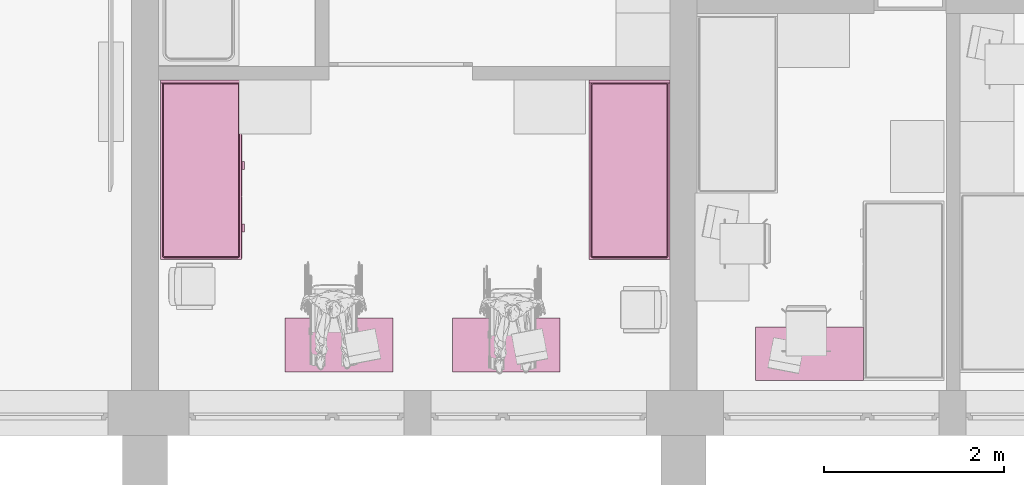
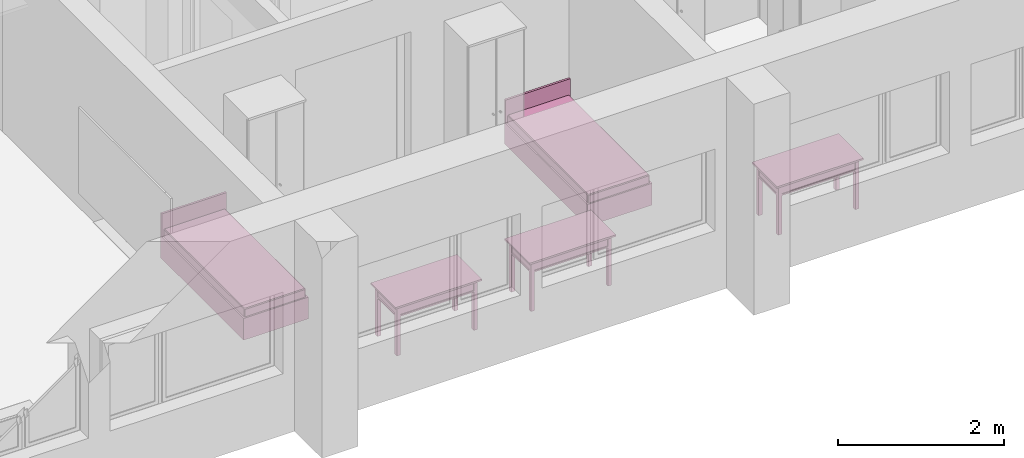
# One storey, part 123 of 172: 5 furnishings.
"""IFC2X3 building model written with IfcOpenShell, lengths in millimetres."""

from ifc_helpers import new_model, entity, si_unit, converted_unit, money_unit, direction, frame, origin_with_axes, place, context, subcontext, project, spatial, faceted_brep, source, transform, mapped, material, material_list, type_object, element, save


model = new_model("IFC2X3")

# Units and contexts
model_context = context("Model", 3, precision=1e-05, world=origin_with_axes(), true_north=direction((0.0, 1.0)))
body_context = subcontext(model_context, "Body", "Model", "MODEL_VIEW")
ifc_project = project(units=[si_unit("LENGTHUNIT", "METRE", prefix="MILLI"), si_unit("AREAUNIT", "SQUARE_METRE"), si_unit("VOLUMEUNIT", "CUBIC_METRE"), converted_unit("PLANEANGLEUNIT", "DEGREE", entity("IfcPlaneAngleMeasure", 0.0174532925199), si_unit("PLANEANGLEUNIT", "RADIAN"), dimensions=[0, 0, 0, 0, 0, 0, 0]), si_unit("SOLIDANGLEUNIT", "STERADIAN"), money_unit("USD"), converted_unit("TIMEUNIT", "Year", entity("IfcTimeMeasure", 31556926.0), si_unit("TIMEUNIT", "SECOND"), dimensions=[0, 0, 0, 0, 0, 0, 0]), si_unit("MASSUNIT", "GRAM"), si_unit("THERMODYNAMICTEMPERATUREUNIT", "DEGREE_CELSIUS"), si_unit("LUMINOUSINTENSITYUNIT", "LUMEN")], contexts=[model_context])

# Site, building, storey
site_placement = place(None, origin_with_axes())
site = spatial("IfcSite", under=ifc_project, at=site_placement, Name="Site", CompositionType="ELEMENT")
building_placement = place(site_placement, origin_with_axes())
building = spatial("IfcBuilding", under=site, at=building_placement, Name="Building", CompositionType="ELEMENT")
storey_placement = place(building_placement, frame((0.0, 0.0, 3200.0), z_axis=(0.0, 0.0, 1.0), x_axis=(1.0, 0.0, 0.0)))
storey = spatial("IfcBuildingStorey", under=building, at=storey_placement, Name="3KORRUS", CompositionType="ELEMENT", Elevation=3200.0)

# Furnishings
ifc_material = material(Name="Background")
ifc_material_list = material_list([ifc_material])
furnishing_element_type_1 = type_object("IfcFurnishingElementType", Name="Bed 19")
shared_shape_1 = source(origin_with_axes(), body_context, "Body", "Brep", [
    faceted_brep([(900.0, 1970.0, 0.0), (0.0, 1970.0, 0.0), (0.0, 2000.0, 0.0), (900.0, 2000.0, 0.0), (900.0, 1970.0, 660.0), (0.0, 1970.0, 660.0), (0.0, 2000.0, 660.0), (900.0, 2000.0, 660.0)], [[[0, 1, 2, 3]], [[1, 0, 4, 5]], [[2, 1, 5, 6]], [[3, 2, 6, 7]], [[0, 3, 7, 4]], [[5, 4, 7, 6]]]),
    faceted_brep([(900.0, 0.0, 0.0), (0.0, 0.0, 0.0), (0.0, 1970.0, 0.0), (900.0, 1970.0, 0.0), (900.0, 0.0, 320.0), (0.0, 0.0, 320.0), (0.0, 1970.0, 320.0), (900.0, 1970.0, 320.0)], [[[0, 1, 2, 3]], [[1, 0, 4, 5]], [[2, 1, 5, 6]], [[3, 2, 6, 7]], [[0, 3, 7, 4]], [[5, 4, 7, 6]]]),
    faceted_brep([(905.0, 10.0, 30.0), (900.0, 10.0, 30.0), (900.0, 695.0, 30.0), (905.0, 695.0, 30.0), (905.0, 10.0, 290.0), (900.0, 10.0, 290.0), (900.0, 695.0, 290.0), (905.0, 695.0, 290.0)], [[[0, 1, 2, 3]], [[1, 0, 4, 5]], [[2, 1, 5, 6]], [[3, 2, 6, 7]], [[0, 3, 7, 4]], [[5, 4, 7, 6]]]),
    faceted_brep([(935.0, 307.5, 150.0), (905.0, 307.5, 150.0), (905.0, 397.5, 150.0), (935.0, 397.5, 150.0), (935.0, 307.5, 170.0), (905.0, 307.5, 170.0), (905.0, 397.5, 170.0), (935.0, 397.5, 170.0)], [[[0, 1, 2, 3]], [[1, 0, 4, 5]], [[2, 1, 5, 6]], [[3, 2, 6, 7]], [[0, 3, 7, 4]], [[5, 4, 7, 6]]]),
    faceted_brep([(905.0, 705.0, 30.0), (900.0, 705.0, 30.0), (900.0, 1390.0, 30.0), (905.0, 1390.0, 30.0), (905.0, 705.0, 290.0), (900.0, 705.0, 290.0), (900.0, 1390.0, 290.0), (905.0, 1390.0, 290.0)], [[[0, 1, 2, 3]], [[1, 0, 4, 5]], [[2, 1, 5, 6]], [[3, 2, 6, 7]], [[0, 3, 7, 4]], [[5, 4, 7, 6]]]),
    faceted_brep([(935.0, 1002.5, 150.0), (905.0, 1002.5, 150.0), (905.0, 1092.5, 150.0), (935.0, 1092.5, 150.0), (935.0, 1002.5, 170.0), (905.0, 1002.5, 170.0), (905.0, 1092.5, 170.0), (935.0, 1092.5, 170.0)], [[[0, 1, 2, 3]], [[1, 0, 4, 5]], [[2, 1, 5, 6]], [[3, 2, 6, 7]], [[0, 3, 7, 4]], [[5, 4, 7, 6]]]),
    faceted_brep([(20.0, 40.0, 350.0), (20.0, 1950.0, 350.0), (21.522, 1957.654, 350.0), (25.858, 1964.142, 350.0), (32.346, 1968.478, 350.0), (40.0, 1970.0, 350.0), (860.0, 1970.0, 350.0), (867.654, 1968.478, 350.0), (874.142, 1964.142, 350.0), (878.478, 1957.654, 350.0), (880.0, 1950.0, 350.0), (880.0, 40.0, 350.0), (878.478, 32.346, 350.0), (874.142, 25.858, 350.0), (867.654, 21.522, 350.0), (860.0, 20.0, 350.0), (40.0, 20.0, 350.0), (32.346, 21.522, 350.0), (25.858, 25.858, 350.0), (21.522, 32.346, 350.0), (20.0, 40.0, 420.0), (20.0, 1950.0, 420.0), (21.522, 1957.654, 420.0), (25.858, 1964.142, 420.0), (32.346, 1968.478, 420.0), (40.0, 1970.0, 420.0), (860.0, 1970.0, 420.0), (867.654, 1968.478, 420.0), (874.142, 1964.142, 420.0), (878.478, 1957.654, 420.0), (880.0, 1950.0, 420.0), (880.0, 40.0, 420.0), (878.478, 32.346, 420.0), (874.142, 25.858, 420.0), (867.654, 21.522, 420.0), (860.0, 20.0, 420.0), (40.0, 20.0, 420.0), (32.346, 21.522, 420.0), (25.858, 25.858, 420.0), (21.522, 32.346, 420.0), (21.522, 40.15, 427.654), (21.522, 1949.85, 427.654), (22.956, 1957.06, 427.654), (26.955, 1963.045, 427.654), (32.94, 1967.044, 427.654), (40.15, 1968.478, 427.654), (859.85, 1968.478, 427.654), (867.06, 1967.044, 427.654), (873.045, 1963.045, 427.654), (877.044, 1957.06, 427.654), (878.478, 1949.85, 427.654), (878.478, 40.15, 427.654), (877.044, 32.94, 427.654), (873.045, 26.955, 427.654), (867.06, 22.956, 427.654), (859.85, 21.522, 427.654), (40.15, 21.522, 427.654), (32.94, 22.956, 427.654), (26.955, 26.955, 427.654), (22.956, 32.94, 427.654), (32.346, 41.216, 438.478), (32.346, 1948.784, 438.478), (33.152, 1952.836, 438.478), (34.759, 1955.241, 438.478), (37.164, 1956.848, 438.478), (41.216, 1957.654, 438.478), (858.784, 1957.654, 438.478), (862.836, 1956.848, 438.478), (865.241, 1955.241, 438.478), (866.848, 1952.836, 438.478), (867.654, 1948.784, 438.478), (867.654, 41.216, 438.478), (866.848, 37.164, 438.478), (865.241, 34.759, 438.478), (862.836, 33.152, 438.478), (858.784, 32.346, 438.478), (41.216, 32.346, 438.478), (37.164, 33.152, 438.478), (34.759, 34.759, 438.478), (33.152, 37.164, 438.478), (40.0, 41.97, 440.0), (40.0, 1948.03, 440.0), (40.327, 1949.673, 440.0), (40.0, 1950.0, 439.924), (41.97, 1950.0, 440.0), (858.03, 1950.0, 440.0), (859.673, 1949.673, 440.0), (860.0, 1950.0, 439.924), (860.0, 1948.03, 440.0), (860.0, 41.97, 440.0), (859.673, 40.327, 440.0), (860.0, 40.0, 439.924), (858.03, 40.0, 440.0), (41.97, 40.0, 440.0), (40.327, 40.327, 440.0), (40.0, 40.0, 439.924)], [[[0, 1, 2, 3, 4, 5, 6, 7, 8, 9, 10, 11, 12, 13, 14, 15, 16, 17, 18, 19]], [[1, 0, 20, 21]], [[2, 1, 21, 22]], [[3, 2, 22, 23]], [[4, 3, 23, 24]], [[5, 4, 24, 25]], [[6, 5, 25, 26]], [[7, 6, 26, 27]], [[8, 7, 27, 28]], [[9, 8, 28, 29]], [[10, 9, 29, 30]], [[11, 10, 30, 31]], [[12, 11, 31, 32]], [[13, 12, 32, 33]], [[14, 13, 33, 34]], [[15, 14, 34, 35]], [[16, 15, 35, 36]], [[17, 16, 36, 37]], [[18, 17, 37, 38]], [[19, 18, 38, 39]], [[0, 19, 39, 20]], [[21, 20, 40, 41]], [[22, 21, 41, 42]], [[23, 22, 42, 43]], [[24, 23, 43, 44]], [[25, 24, 44, 45]], [[26, 25, 45, 46]], [[27, 26, 46, 47]], [[28, 27, 47, 48]], [[29, 28, 48, 49]], [[30, 29, 49, 50]], [[31, 30, 50, 51]], [[32, 31, 51, 52]], [[33, 32, 52, 53]], [[34, 33, 53, 54]], [[35, 34, 54, 55]], [[36, 35, 55, 56]], [[37, 36, 56, 57]], [[38, 37, 57, 58]], [[39, 38, 58, 59]], [[20, 39, 59, 40]], [[41, 40, 60, 61]], [[42, 41, 61, 62]], [[43, 42, 62, 63]], [[44, 43, 63, 64]], [[45, 44, 64, 65]], [[46, 45, 65, 66]], [[47, 46, 66, 67]], [[48, 47, 67, 68]], [[49, 48, 68, 69]], [[50, 49, 69, 70]], [[51, 50, 70, 71]], [[52, 51, 71, 72]], [[53, 52, 72, 73]], [[54, 53, 73, 74]], [[55, 54, 74, 75]], [[56, 55, 75, 76]], [[57, 56, 76, 77]], [[58, 57, 77, 78]], [[59, 58, 78, 79]], [[40, 59, 79, 60]], [[61, 60, 80, 81]], [[62, 61, 81, 82, 83]], [[63, 62, 83]], [[64, 63, 83]], [[65, 64, 83, 82, 84]], [[66, 65, 84, 85]], [[67, 66, 85, 86, 87]], [[68, 67, 87]], [[69, 68, 87]], [[70, 69, 87, 86, 88]], [[71, 70, 88, 89]], [[72, 71, 89, 90, 91]], [[73, 72, 91]], [[74, 73, 91]], [[75, 74, 91, 90, 92]], [[76, 75, 92, 93]], [[77, 76, 93, 94, 95]], [[78, 77, 95]], [[79, 78, 95]], [[60, 79, 95, 94, 80]], [[81, 80, 94, 93, 92, 90, 89, 88, 86, 85, 84, 82]]]),
    faceted_brep([(20.0, 40.0, 350.0), (21.522, 32.346, 350.0), (25.858, 25.858, 350.0), (32.346, 21.522, 350.0), (40.0, 20.0, 350.0), (860.0, 20.0, 350.0), (867.654, 21.522, 350.0), (874.142, 25.858, 350.0), (878.478, 32.346, 350.0), (880.0, 40.0, 350.0), (880.0, 1950.0, 350.0), (878.478, 1957.654, 350.0), (874.142, 1964.142, 350.0), (867.654, 1968.478, 350.0), (860.0, 1970.0, 350.0), (40.0, 1970.0, 350.0), (32.346, 1968.478, 350.0), (25.858, 1964.142, 350.0), (21.522, 1957.654, 350.0), (20.0, 1950.0, 350.0), (20.0, 40.0, 320.0), (21.522, 32.346, 320.0), (25.858, 25.858, 320.0), (32.346, 21.522, 320.0), (40.0, 20.0, 320.0), (860.0, 20.0, 320.0), (867.654, 21.522, 320.0), (874.142, 25.858, 320.0), (878.478, 32.346, 320.0), (880.0, 40.0, 320.0), (880.0, 1950.0, 320.0), (878.478, 1957.654, 320.0), (874.142, 1964.142, 320.0), (867.654, 1968.478, 320.0), (860.0, 1970.0, 320.0), (40.0, 1970.0, 320.0), (32.346, 1968.478, 320.0), (25.858, 1964.142, 320.0), (21.522, 1957.654, 320.0), (20.0, 1950.0, 320.0)], [[[0, 1, 2, 3, 4, 5, 6, 7, 8, 9, 10, 11, 12, 13, 14, 15, 16, 17, 18, 19]], [[0, 20, 21, 1]], [[1, 21, 22, 2]], [[2, 22, 23, 3]], [[3, 23, 24, 4]], [[4, 24, 25, 5]], [[5, 25, 26, 6]], [[6, 26, 27, 7]], [[7, 27, 28, 8]], [[8, 28, 29, 9]], [[9, 29, 30, 10]], [[10, 30, 31, 11]], [[11, 31, 32, 12]], [[12, 32, 33, 13]], [[13, 33, 34, 14]], [[14, 34, 35, 15]], [[15, 35, 36, 16]], [[16, 36, 37, 17]], [[17, 37, 38, 18]], [[18, 38, 39, 19]], [[19, 39, 20, 0]], [[20, 39, 38, 37, 36, 35, 34, 33, 32, 31, 30, 29, 28, 27, 26, 25, 24, 23, 22, 21]]]),
])
for number, where, z_axis, x_axis, name in (
    (1, (-1190.29670331, -18179.7357921, 0.0), (0.0, 0.0, 1.0), (1.0, 0.0, 0.0), "FU - 013"),
    (2, (-5966.56098744, -18179.7357921, 0.0), (0.0, 0.0, 1.0), (1.0, 0.0, 0.0), "FU - 013"),
):
    element("IfcFurnishingElement", number, at=place(storey_placement, frame(where, z_axis=z_axis, x_axis=x_axis)), inside=storey, type_object=furnishing_element_type_1, material=ifc_material_list, Name=name, context=body_context, shape_type="MappedRepresentation", body=[
        mapped(shared_shape_1, transform((0.0, 0.0, 0.0))),
    ])
furnishing_element_type_2 = type_object("IfcFurnishingElementType", Name="Rectangular Table 01 19")
shared_shape_2 = source(origin_with_axes(), body_context, "Body", "Brep", [
    faceted_brep([(90.0, 40.0, 0.0), (40.0, 40.0, 0.0), (40.0, 90.0, 0.0), (90.0, 90.0, 0.0), (90.0, 40.0, 725.0), (40.0, 40.0, 725.0), (40.0, 90.0, 725.0), (90.0, 90.0, 725.0)], [[[0, 1, 2, 3]], [[1, 0, 4, 5]], [[2, 1, 5, 6]], [[3, 2, 6, 7]], [[0, 3, 7, 4]], [[5, 4, 7, 6]]]),
    faceted_brep([(1160.0, 40.0, 0.0), (1110.0, 40.0, 0.0), (1110.0, 90.0, 0.0), (1160.0, 90.0, 0.0), (1160.0, 40.0, 725.0), (1110.0, 40.0, 725.0), (1110.0, 90.0, 725.0), (1160.0, 90.0, 725.0)], [[[0, 1, 2, 3]], [[1, 0, 4, 5]], [[2, 1, 5, 6]], [[3, 2, 6, 7]], [[0, 3, 7, 4]], [[5, 4, 7, 6]]]),
    faceted_brep([(90.0, 510.0, 0.0), (40.0, 510.0, 0.0), (40.0, 560.0, 0.0), (90.0, 560.0, 0.0), (90.0, 510.0, 725.0), (40.0, 510.0, 725.0), (40.0, 560.0, 725.0), (90.0, 560.0, 725.0)], [[[0, 1, 2, 3]], [[1, 0, 4, 5]], [[2, 1, 5, 6]], [[3, 2, 6, 7]], [[0, 3, 7, 4]], [[5, 4, 7, 6]]]),
    faceted_brep([(1160.0, 510.0, 0.0), (1110.0, 510.0, 0.0), (1110.0, 560.0, 0.0), (1160.0, 560.0, 0.0), (1160.0, 510.0, 725.0), (1110.0, 510.0, 725.0), (1110.0, 560.0, 725.0), (1160.0, 560.0, 725.0)], [[[0, 1, 2, 3]], [[1, 0, 4, 5]], [[2, 1, 5, 6]], [[3, 2, 6, 7]], [[0, 3, 7, 4]], [[5, 4, 7, 6]]]),
    faceted_brep([(1160.0, 40.0, 565.0), (40.0, 40.0, 565.0), (40.0, 560.0, 565.0), (1160.0, 560.0, 565.0), (1160.0, 40.0, 585.0), (40.0, 40.0, 585.0), (40.0, 560.0, 585.0), (1160.0, 560.0, 585.0)], [[[0, 1, 2, 3]], [[1, 0, 4, 5]], [[2, 1, 5, 6]], [[3, 2, 6, 7]], [[0, 3, 7, 4]], [[5, 4, 7, 6]]]),
    faceted_brep([(1110.0, 52.5, 585.0), (90.0, 52.5, 585.0), (90.0, 77.5, 585.0), (1110.0, 77.5, 585.0), (1110.0, 52.5, 745.0), (90.0, 52.5, 745.0), (90.0, 77.5, 745.0), (1110.0, 77.5, 745.0)], [[[0, 1, 2, 3]], [[1, 0, 4, 5]], [[2, 1, 5, 6]], [[3, 2, 6, 7]], [[0, 3, 7, 4]], [[5, 4, 7, 6]]]),
    faceted_brep([(77.5, 90.0, 585.0), (52.5, 90.0, 585.0), (52.5, 510.0, 585.0), (77.5, 510.0, 585.0), (77.5, 90.0, 745.0), (52.5, 90.0, 745.0), (52.5, 510.0, 745.0), (77.5, 510.0, 745.0)], [[[0, 1, 2, 3]], [[1, 0, 4, 5]], [[2, 1, 5, 6]], [[3, 2, 6, 7]], [[0, 3, 7, 4]], [[5, 4, 7, 6]]]),
    faceted_brep([(90.0, 547.5, 585.0), (1110.0, 547.5, 585.0), (1110.0, 522.5, 585.0), (90.0, 522.5, 585.0), (90.0, 547.5, 745.0), (1110.0, 547.5, 745.0), (1110.0, 522.5, 745.0), (90.0, 522.5, 745.0)], [[[0, 1, 2, 3]], [[1, 0, 4, 5]], [[2, 1, 5, 6]], [[3, 2, 6, 7]], [[0, 3, 7, 4]], [[5, 4, 7, 6]]]),
    faceted_brep([(1122.5, 510.0, 585.0), (1147.5, 510.0, 585.0), (1147.5, 90.0, 585.0), (1122.5, 90.0, 585.0), (1122.5, 510.0, 745.0), (1147.5, 510.0, 745.0), (1147.5, 90.0, 745.0), (1122.5, 90.0, 745.0)], [[[0, 1, 2, 3]], [[1, 0, 4, 5]], [[2, 1, 5, 6]], [[3, 2, 6, 7]], [[0, 3, 7, 4]], [[5, 4, 7, 6]]]),
    faceted_brep([(597.5, 40.0, 585.0), (95.0, 40.0, 585.0), (95.0, 60.0, 585.0), (597.5, 60.0, 585.0), (597.5, 40.0, 745.0), (95.0, 40.0, 745.0), (95.0, 60.0, 745.0), (597.5, 60.0, 745.0)], [[[0, 1, 2, 3]], [[1, 0, 4, 5]], [[2, 1, 5, 6]], [[3, 2, 6, 7]], [[0, 3, 7, 4]], [[5, 4, 7, 6]]]),
    faceted_brep([(1105.0, 40.0, 585.0), (602.5, 40.0, 585.0), (602.5, 60.0, 585.0), (1105.0, 60.0, 585.0), (1105.0, 40.0, 745.0), (602.5, 40.0, 745.0), (602.5, 60.0, 745.0), (1105.0, 60.0, 745.0)], [[[0, 1, 2, 3]], [[1, 0, 4, 5]], [[2, 1, 5, 6]], [[3, 2, 6, 7]], [[0, 3, 7, 4]], [[5, 4, 7, 6]]]),
    faceted_brep([(354.91, 40.0, 660.0), (351.25, 40.0, 656.34), (346.25, 40.0, 655.0), (341.25, 40.0, 656.34), (337.59, 40.0, 660.0), (336.25, 40.0, 665.0), (337.59, 40.0, 670.0), (341.25, 40.0, 673.66), (346.25, 40.0, 675.0), (351.25, 40.0, 673.66), (354.91, 40.0, 670.0), (356.25, 40.0, 665.0), (354.91, 25.0, 660.0), (351.25, 25.0, 656.34), (346.25, 25.0, 655.0), (341.25, 25.0, 656.34), (337.59, 25.0, 660.0), (336.25, 25.0, 665.0), (337.59, 25.0, 670.0), (341.25, 25.0, 673.66), (346.25, 25.0, 675.0), (351.25, 25.0, 673.66), (354.91, 25.0, 670.0), (356.25, 25.0, 665.0)], [[[0, 1, 2, 3, 4, 5, 6, 7, 8, 9, 10, 11]], [[1, 0, 12, 13]], [[2, 1, 13, 14]], [[3, 2, 14, 15]], [[4, 3, 15, 16]], [[5, 4, 16, 17]], [[6, 5, 17, 18]], [[7, 6, 18, 19]], [[8, 7, 19, 20]], [[9, 8, 20, 21]], [[10, 9, 21, 22]], [[11, 10, 22, 23]], [[0, 11, 23, 12]], [[12, 23, 22, 21, 20, 19, 18, 17, 16, 15, 14, 13]]]),
    faceted_brep([(356.25, 12.01, 665.0), (346.25, 10.0, 665.0), (354.91, 12.01, 660.0), (354.91, 12.01, 670.0), (351.25, 12.01, 656.34), (363.571, 17.5, 665.0), (361.25, 17.5, 656.34), (351.25, 12.01, 673.66), (361.25, 17.5, 673.66), (346.25, 12.01, 655.0), (354.91, 17.5, 650.0), (366.25, 25.0, 665.0), (363.571, 25.0, 655.0), (346.25, 12.01, 675.0), (354.91, 17.5, 680.0), (363.571, 25.0, 675.0), (341.25, 12.01, 656.34), (346.25, 17.5, 647.679), (356.25, 25.0, 647.679), (346.25, 25.0, 645.0), (336.25, 25.0, 647.679), (328.929, 25.0, 655.0), (326.25, 25.0, 665.0), (328.929, 25.0, 675.0), (336.25, 25.0, 682.321), (346.25, 25.0, 685.0), (356.25, 25.0, 682.321), (341.25, 12.01, 673.66), (346.25, 17.5, 682.321), (337.59, 12.01, 660.0), (337.59, 17.5, 650.0), (331.25, 17.5, 656.34), (328.929, 17.5, 665.0), (331.25, 17.5, 673.66), (337.59, 17.5, 680.0), (337.59, 12.01, 670.0), (336.25, 12.01, 665.0)], [[[0, 1, 2]], [[3, 1, 0]], [[2, 1, 4]], [[5, 0, 2, 6]], [[7, 1, 3]], [[8, 3, 0, 5]], [[4, 1, 9]], [[6, 2, 4, 10]], [[11, 5, 6, 12]], [[13, 1, 7]], [[14, 7, 3, 8]], [[15, 8, 5, 11]], [[9, 1, 16]], [[10, 4, 9, 17]], [[12, 6, 10, 18]], [[12, 18, 19, 20, 21, 22, 23, 24, 25, 26, 15, 11]], [[27, 1, 13]], [[28, 13, 7, 14]], [[26, 14, 8, 15]], [[16, 1, 29]], [[17, 9, 16, 30]], [[18, 10, 17, 19]], [[19, 17, 30, 20]], [[20, 30, 31, 21]], [[21, 31, 32, 22]], [[22, 32, 33, 23]], [[23, 33, 34, 24]], [[24, 34, 28, 25]], [[25, 28, 14, 26]], [[35, 1, 27]], [[34, 27, 13, 28]], [[29, 1, 36]], [[30, 16, 29, 31]], [[31, 29, 36, 32]], [[32, 36, 35, 33]], [[33, 35, 27, 34]], [[36, 1, 35]]]),
    faceted_brep([(862.41, 40.0, 660.0), (858.75, 40.0, 656.34), (853.75, 40.0, 655.0), (848.75, 40.0, 656.34), (845.09, 40.0, 660.0), (843.75, 40.0, 665.0), (845.09, 40.0, 670.0), (848.75, 40.0, 673.66), (853.75, 40.0, 675.0), (858.75, 40.0, 673.66), (862.41, 40.0, 670.0), (863.75, 40.0, 665.0), (862.41, 25.0, 660.0), (858.75, 25.0, 656.34), (853.75, 25.0, 655.0), (848.75, 25.0, 656.34), (845.09, 25.0, 660.0), (843.75, 25.0, 665.0), (845.09, 25.0, 670.0), (848.75, 25.0, 673.66), (853.75, 25.0, 675.0), (858.75, 25.0, 673.66), (862.41, 25.0, 670.0), (863.75, 25.0, 665.0)], [[[0, 1, 2, 3, 4, 5, 6, 7, 8, 9, 10, 11]], [[1, 0, 12, 13]], [[2, 1, 13, 14]], [[3, 2, 14, 15]], [[4, 3, 15, 16]], [[5, 4, 16, 17]], [[6, 5, 17, 18]], [[7, 6, 18, 19]], [[8, 7, 19, 20]], [[9, 8, 20, 21]], [[10, 9, 21, 22]], [[11, 10, 22, 23]], [[0, 11, 23, 12]], [[12, 23, 22, 21, 20, 19, 18, 17, 16, 15, 14, 13]]]),
    faceted_brep([(863.75, 12.01, 665.0), (853.75, 10.0, 665.0), (862.41, 12.01, 660.0), (862.41, 12.01, 670.0), (858.75, 12.01, 656.34), (871.071, 17.5, 665.0), (868.75, 17.5, 656.34), (858.75, 12.01, 673.66), (868.75, 17.5, 673.66), (853.75, 12.01, 655.0), (862.41, 17.5, 650.0), (873.75, 25.0, 665.0), (871.071, 25.0, 655.0), (853.75, 12.01, 675.0), (862.41, 17.5, 680.0), (871.071, 25.0, 675.0), (848.75, 12.01, 656.34), (853.75, 17.5, 647.679), (863.75, 25.0, 647.679), (853.75, 25.0, 645.0), (843.75, 25.0, 647.679), (836.429, 25.0, 655.0), (833.75, 25.0, 665.0), (836.429, 25.0, 675.0), (843.75, 25.0, 682.321), (853.75, 25.0, 685.0), (863.75, 25.0, 682.321), (848.75, 12.01, 673.66), (853.75, 17.5, 682.321), (845.09, 12.01, 660.0), (845.09, 17.5, 650.0), (838.75, 17.5, 656.34), (836.429, 17.5, 665.0), (838.75, 17.5, 673.66), (845.09, 17.5, 680.0), (845.09, 12.01, 670.0), (843.75, 12.01, 665.0)], [[[0, 1, 2]], [[3, 1, 0]], [[2, 1, 4]], [[5, 0, 2, 6]], [[7, 1, 3]], [[8, 3, 0, 5]], [[4, 1, 9]], [[6, 2, 4, 10]], [[11, 5, 6, 12]], [[13, 1, 7]], [[14, 7, 3, 8]], [[15, 8, 5, 11]], [[9, 1, 16]], [[10, 4, 9, 17]], [[12, 6, 10, 18]], [[12, 18, 19, 20, 21, 22, 23, 24, 25, 26, 15, 11]], [[27, 1, 13]], [[28, 13, 7, 14]], [[26, 14, 8, 15]], [[16, 1, 29]], [[17, 9, 16, 30]], [[18, 10, 17, 19]], [[19, 17, 30, 20]], [[20, 30, 31, 21]], [[21, 31, 32, 22]], [[22, 32, 33, 23]], [[23, 33, 34, 24]], [[24, 34, 28, 25]], [[25, 28, 14, 26]], [[35, 1, 27]], [[34, 27, 13, 28]], [[29, 1, 36]], [[30, 16, 29, 31]], [[31, 29, 36, 32]], [[32, 36, 35, 33]], [[33, 35, 27, 34]], [[36, 1, 35]]]),
    faceted_brep([(1200.0, 0.0, 725.0), (0.0, 0.0, 725.0), (0.0, 600.0, 725.0), (1200.0, 600.0, 725.0), (1200.0, 0.0, 750.0), (0.0, 0.0, 750.0), (0.0, 600.0, 750.0), (1200.0, 600.0, 750.0)], [[[0, 1, 2, 3]], [[1, 0, 4, 5]], [[2, 1, 5, 6]], [[3, 2, 6, 7]], [[0, 3, 7, 4]], [[5, 4, 7, 6]]]),
])
for number, where, z_axis, x_axis, name in (
    (3, (-3377.68098369, -18829.2398994, 0.0), (0.0, 0.0, 1.0), (-1.0, 0.0, 0.0), "FU - 011"),
    (4, (-1515.13559706, -18829.2398994, 0.0), (0.0, 0.0, 1.0), (-1.0, 0.0, 0.0), "FU - 011"),
):
    element("IfcFurnishingElement", number, at=place(storey_placement, frame(where, z_axis=z_axis, x_axis=x_axis)), inside=storey, type_object=furnishing_element_type_2, material=ifc_material_list, Name=name, context=body_context, shape_type="MappedRepresentation", body=[
        mapped(shared_shape_2, transform((0.0, 0.0, 0.0))),
    ])
shared_shape_3 = source(origin_with_axes(), body_context, "Body", "Brep", [
    faceted_brep([(-90.0, 40.0, 0.0), (-90.0, 90.0, 0.0), (-40.0, 90.0, 0.0), (-40.0, 40.0, 0.0), (-90.0, 40.0, 725.0), (-90.0, 90.0, 725.0), (-40.0, 90.0, 725.0), (-40.0, 40.0, 725.0)], [[[0, 1, 2, 3]], [[0, 4, 5, 1]], [[1, 5, 6, 2]], [[2, 6, 7, 3]], [[3, 7, 4, 0]], [[7, 6, 5, 4]]]),
    faceted_brep([(-1160.0, 40.0, 0.0), (-1160.0, 90.0, 0.0), (-1110.0, 90.0, 0.0), (-1110.0, 40.0, 0.0), (-1160.0, 40.0, 725.0), (-1160.0, 90.0, 725.0), (-1110.0, 90.0, 725.0), (-1110.0, 40.0, 725.0)], [[[0, 1, 2, 3]], [[0, 4, 5, 1]], [[1, 5, 6, 2]], [[2, 6, 7, 3]], [[3, 7, 4, 0]], [[7, 6, 5, 4]]]),
    faceted_brep([(-90.0, 510.0, 0.0), (-90.0, 560.0, 0.0), (-40.0, 560.0, 0.0), (-40.0, 510.0, 0.0), (-90.0, 510.0, 725.0), (-90.0, 560.0, 725.0), (-40.0, 560.0, 725.0), (-40.0, 510.0, 725.0)], [[[0, 1, 2, 3]], [[0, 4, 5, 1]], [[1, 5, 6, 2]], [[2, 6, 7, 3]], [[3, 7, 4, 0]], [[7, 6, 5, 4]]]),
    faceted_brep([(-1160.0, 510.0, 0.0), (-1160.0, 560.0, 0.0), (-1110.0, 560.0, 0.0), (-1110.0, 510.0, 0.0), (-1160.0, 510.0, 725.0), (-1160.0, 560.0, 725.0), (-1110.0, 560.0, 725.0), (-1110.0, 510.0, 725.0)], [[[0, 1, 2, 3]], [[0, 4, 5, 1]], [[1, 5, 6, 2]], [[2, 6, 7, 3]], [[3, 7, 4, 0]], [[7, 6, 5, 4]]]),
    faceted_brep([(-1160.0, 40.0, 565.0), (-1160.0, 560.0, 565.0), (-40.0, 560.0, 565.0), (-40.0, 40.0, 565.0), (-1160.0, 40.0, 585.0), (-1160.0, 560.0, 585.0), (-40.0, 560.0, 585.0), (-40.0, 40.0, 585.0)], [[[0, 1, 2, 3]], [[0, 4, 5, 1]], [[1, 5, 6, 2]], [[2, 6, 7, 3]], [[3, 7, 4, 0]], [[7, 6, 5, 4]]]),
    faceted_brep([(-1110.0, 52.5, 585.0), (-1110.0, 77.5, 585.0), (-90.0, 77.5, 585.0), (-90.0, 52.5, 585.0), (-1110.0, 52.5, 745.0), (-1110.0, 77.5, 745.0), (-90.0, 77.5, 745.0), (-90.0, 52.5, 745.0)], [[[0, 1, 2, 3]], [[0, 4, 5, 1]], [[1, 5, 6, 2]], [[2, 6, 7, 3]], [[3, 7, 4, 0]], [[7, 6, 5, 4]]]),
    faceted_brep([(-77.5, 90.0, 585.0), (-77.5, 510.0, 585.0), (-52.5, 510.0, 585.0), (-52.5, 90.0, 585.0), (-77.5, 90.0, 745.0), (-77.5, 510.0, 745.0), (-52.5, 510.0, 745.0), (-52.5, 90.0, 745.0)], [[[0, 1, 2, 3]], [[0, 4, 5, 1]], [[1, 5, 6, 2]], [[2, 6, 7, 3]], [[3, 7, 4, 0]], [[7, 6, 5, 4]]]),
    faceted_brep([(-90.0, 547.5, 585.0), (-90.0, 522.5, 585.0), (-1110.0, 522.5, 585.0), (-1110.0, 547.5, 585.0), (-90.0, 547.5, 745.0), (-90.0, 522.5, 745.0), (-1110.0, 522.5, 745.0), (-1110.0, 547.5, 745.0)], [[[0, 1, 2, 3]], [[0, 4, 5, 1]], [[1, 5, 6, 2]], [[2, 6, 7, 3]], [[3, 7, 4, 0]], [[7, 6, 5, 4]]]),
    faceted_brep([(-1122.5, 510.0, 585.0), (-1122.5, 90.0, 585.0), (-1147.5, 90.0, 585.0), (-1147.5, 510.0, 585.0), (-1122.5, 510.0, 745.0), (-1122.5, 90.0, 745.0), (-1147.5, 90.0, 745.0), (-1147.5, 510.0, 745.0)], [[[0, 1, 2, 3]], [[0, 4, 5, 1]], [[1, 5, 6, 2]], [[2, 6, 7, 3]], [[3, 7, 4, 0]], [[7, 6, 5, 4]]]),
    faceted_brep([(-597.5, 40.0, 585.0), (-597.5, 60.0, 585.0), (-95.0, 60.0, 585.0), (-95.0, 40.0, 585.0), (-597.5, 40.0, 745.0), (-597.5, 60.0, 745.0), (-95.0, 60.0, 745.0), (-95.0, 40.0, 745.0)], [[[0, 1, 2, 3]], [[0, 4, 5, 1]], [[1, 5, 6, 2]], [[2, 6, 7, 3]], [[3, 7, 4, 0]], [[7, 6, 5, 4]]]),
    faceted_brep([(-1105.0, 40.0, 585.0), (-1105.0, 60.0, 585.0), (-602.5, 60.0, 585.0), (-602.5, 40.0, 585.0), (-1105.0, 40.0, 745.0), (-1105.0, 60.0, 745.0), (-602.5, 60.0, 745.0), (-602.5, 40.0, 745.0)], [[[0, 1, 2, 3]], [[0, 4, 5, 1]], [[1, 5, 6, 2]], [[2, 6, 7, 3]], [[3, 7, 4, 0]], [[7, 6, 5, 4]]]),
    faceted_brep([(-354.91, 40.0, 660.0), (-356.25, 40.0, 665.0), (-354.91, 40.0, 670.0), (-351.25, 40.0, 673.66), (-346.25, 40.0, 675.0), (-341.25, 40.0, 673.66), (-337.59, 40.0, 670.0), (-336.25, 40.0, 665.0), (-337.59, 40.0, 660.0), (-341.25, 40.0, 656.34), (-346.25, 40.0, 655.0), (-351.25, 40.0, 656.34), (-354.91, 25.0, 660.0), (-356.25, 25.0, 665.0), (-354.91, 25.0, 670.0), (-351.25, 25.0, 673.66), (-346.25, 25.0, 675.0), (-341.25, 25.0, 673.66), (-337.59, 25.0, 670.0), (-336.25, 25.0, 665.0), (-337.59, 25.0, 660.0), (-341.25, 25.0, 656.34), (-346.25, 25.0, 655.0), (-351.25, 25.0, 656.34)], [[[0, 1, 2, 3, 4, 5, 6, 7, 8, 9, 10, 11]], [[0, 12, 13, 1]], [[1, 13, 14, 2]], [[2, 14, 15, 3]], [[3, 15, 16, 4]], [[4, 16, 17, 5]], [[5, 17, 18, 6]], [[6, 18, 19, 7]], [[7, 19, 20, 8]], [[8, 20, 21, 9]], [[9, 21, 22, 10]], [[10, 22, 23, 11]], [[11, 23, 12, 0]], [[12, 23, 22, 21, 20, 19, 18, 17, 16, 15, 14, 13]]]),
    faceted_brep([(-356.25, 12.01, 665.0), (-354.91, 12.01, 660.0), (-346.25, 10.0, 665.0), (-363.571, 17.5, 665.0), (-361.25, 17.5, 656.34), (-351.25, 12.01, 656.34), (-354.91, 12.01, 670.0), (-366.25, 25.0, 665.0), (-363.571, 25.0, 655.0), (-354.91, 17.5, 650.0), (-361.25, 17.5, 673.66), (-346.25, 12.01, 655.0), (-351.25, 12.01, 673.66), (-363.571, 25.0, 675.0), (-356.25, 25.0, 682.321), (-346.25, 25.0, 685.0), (-336.25, 25.0, 682.321), (-328.929, 25.0, 675.0), (-326.25, 25.0, 665.0), (-328.929, 25.0, 655.0), (-336.25, 25.0, 647.679), (-346.25, 25.0, 645.0), (-356.25, 25.0, 647.679), (-346.25, 17.5, 647.679), (-354.91, 17.5, 680.0), (-341.25, 12.01, 656.34), (-346.25, 12.01, 675.0), (-346.25, 17.5, 682.321), (-337.59, 17.5, 680.0), (-331.25, 17.5, 673.66), (-328.929, 17.5, 665.0), (-331.25, 17.5, 656.34), (-337.59, 17.5, 650.0), (-337.59, 12.01, 660.0), (-341.25, 12.01, 673.66), (-337.59, 12.01, 670.0), (-336.25, 12.01, 665.0)], [[[0, 1, 2]], [[3, 4, 1, 0]], [[1, 5, 2]], [[6, 0, 2]], [[7, 8, 4, 3]], [[4, 9, 5, 1]], [[10, 3, 0, 6]], [[5, 11, 2]], [[12, 6, 2]], [[8, 7, 13, 14, 15, 16, 17, 18, 19, 20, 21, 22]], [[8, 22, 9, 4]], [[13, 7, 3, 10]], [[9, 23, 11, 5]], [[24, 10, 6, 12]], [[11, 25, 2]], [[26, 12, 2]], [[14, 13, 10, 24]], [[15, 14, 24, 27]], [[16, 15, 27, 28]], [[17, 16, 28, 29]], [[18, 17, 29, 30]], [[19, 18, 30, 31]], [[20, 19, 31, 32]], [[21, 20, 32, 23]], [[22, 21, 23, 9]], [[23, 32, 25, 11]], [[27, 24, 12, 26]], [[25, 33, 2]], [[34, 26, 2]], [[28, 27, 26, 34]], [[29, 28, 34, 35]], [[30, 29, 35, 36]], [[31, 30, 36, 33]], [[32, 31, 33, 25]], [[33, 36, 2]], [[35, 34, 2]], [[36, 35, 2]]]),
    faceted_brep([(-862.41, 40.0, 660.0), (-863.75, 40.0, 665.0), (-862.41, 40.0, 670.0), (-858.75, 40.0, 673.66), (-853.75, 40.0, 675.0), (-848.75, 40.0, 673.66), (-845.09, 40.0, 670.0), (-843.75, 40.0, 665.0), (-845.09, 40.0, 660.0), (-848.75, 40.0, 656.34), (-853.75, 40.0, 655.0), (-858.75, 40.0, 656.34), (-862.41, 25.0, 660.0), (-863.75, 25.0, 665.0), (-862.41, 25.0, 670.0), (-858.75, 25.0, 673.66), (-853.75, 25.0, 675.0), (-848.75, 25.0, 673.66), (-845.09, 25.0, 670.0), (-843.75, 25.0, 665.0), (-845.09, 25.0, 660.0), (-848.75, 25.0, 656.34), (-853.75, 25.0, 655.0), (-858.75, 25.0, 656.34)], [[[0, 1, 2, 3, 4, 5, 6, 7, 8, 9, 10, 11]], [[0, 12, 13, 1]], [[1, 13, 14, 2]], [[2, 14, 15, 3]], [[3, 15, 16, 4]], [[4, 16, 17, 5]], [[5, 17, 18, 6]], [[6, 18, 19, 7]], [[7, 19, 20, 8]], [[8, 20, 21, 9]], [[9, 21, 22, 10]], [[10, 22, 23, 11]], [[11, 23, 12, 0]], [[12, 23, 22, 21, 20, 19, 18, 17, 16, 15, 14, 13]]]),
    faceted_brep([(-863.75, 12.01, 665.0), (-862.41, 12.01, 660.0), (-853.75, 10.0, 665.0), (-871.071, 17.5, 665.0), (-868.75, 17.5, 656.34), (-858.75, 12.01, 656.34), (-862.41, 12.01, 670.0), (-873.75, 25.0, 665.0), (-871.071, 25.0, 655.0), (-862.41, 17.5, 650.0), (-868.75, 17.5, 673.66), (-853.75, 12.01, 655.0), (-858.75, 12.01, 673.66), (-871.071, 25.0, 675.0), (-863.75, 25.0, 682.321), (-853.75, 25.0, 685.0), (-843.75, 25.0, 682.321), (-836.429, 25.0, 675.0), (-833.75, 25.0, 665.0), (-836.429, 25.0, 655.0), (-843.75, 25.0, 647.679), (-853.75, 25.0, 645.0), (-863.75, 25.0, 647.679), (-853.75, 17.5, 647.679), (-862.41, 17.5, 680.0), (-848.75, 12.01, 656.34), (-853.75, 12.01, 675.0), (-853.75, 17.5, 682.321), (-845.09, 17.5, 680.0), (-838.75, 17.5, 673.66), (-836.429, 17.5, 665.0), (-838.75, 17.5, 656.34), (-845.09, 17.5, 650.0), (-845.09, 12.01, 660.0), (-848.75, 12.01, 673.66), (-845.09, 12.01, 670.0), (-843.75, 12.01, 665.0)], [[[0, 1, 2]], [[3, 4, 1, 0]], [[1, 5, 2]], [[6, 0, 2]], [[7, 8, 4, 3]], [[4, 9, 5, 1]], [[10, 3, 0, 6]], [[5, 11, 2]], [[12, 6, 2]], [[8, 7, 13, 14, 15, 16, 17, 18, 19, 20, 21, 22]], [[8, 22, 9, 4]], [[13, 7, 3, 10]], [[9, 23, 11, 5]], [[24, 10, 6, 12]], [[11, 25, 2]], [[26, 12, 2]], [[14, 13, 10, 24]], [[15, 14, 24, 27]], [[16, 15, 27, 28]], [[17, 16, 28, 29]], [[18, 17, 29, 30]], [[19, 18, 30, 31]], [[20, 19, 31, 32]], [[21, 20, 32, 23]], [[22, 21, 23, 9]], [[23, 32, 25, 11]], [[27, 24, 12, 26]], [[25, 33, 2]], [[34, 26, 2]], [[28, 27, 26, 34]], [[29, 28, 34, 35]], [[30, 29, 35, 36]], [[31, 30, 36, 33]], [[32, 31, 33, 25]], [[33, 36, 2]], [[35, 34, 2]], [[36, 35, 2]]]),
    faceted_brep([(-1200.0, 0.0, 725.0), (-1200.0, 600.0, 725.0), (0.0, 600.0, 725.0), (0.0, 0.0, 725.0), (-1200.0, 0.0, 750.0), (-1200.0, 600.0, 750.0), (0.0, 600.0, 750.0), (0.0, 0.0, 750.0)], [[[0, 1, 2, 3]], [[0, 4, 5, 1]], [[1, 5, 6, 2]], [[2, 6, 7, 3]], [[3, 7, 4, 0]], [[7, 6, 5, 4]]]),
])
furnishing_placement = place(storey_placement, frame((664.703296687, -18929.2398994, 0.0), z_axis=(0.0, 0.0, 1.0), x_axis=(-1.0, 0.0, 0.0)))
element("IfcFurnishingElement", 5, at=furnishing_placement, inside=storey, type_object=furnishing_element_type_2, material=ifc_material_list, Name="FU - 011", context=body_context, shape_type="MappedRepresentation", body=[
    mapped(shared_shape_3, transform((0.0, 0.0, 0.0))),
])

save(model, "model.ifc")
